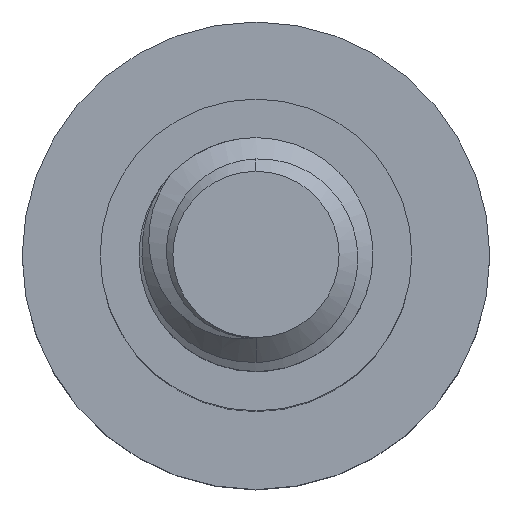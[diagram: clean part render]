
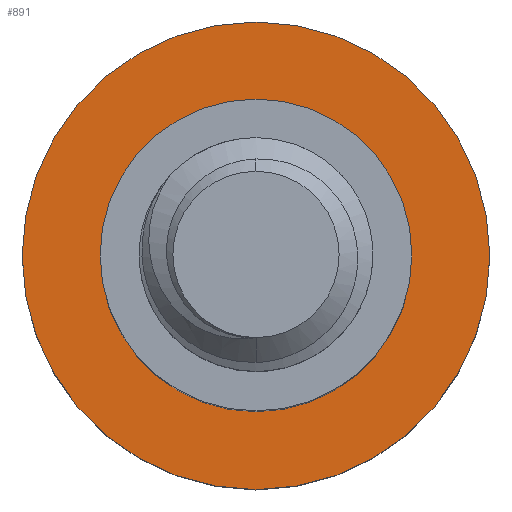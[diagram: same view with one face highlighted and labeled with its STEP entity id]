
A CAD part, top view. The second image highlights one B-rep face of the part: STEP entity #891.
In plain terms, the highlighted planar face has unit normal (0, 0, 1).
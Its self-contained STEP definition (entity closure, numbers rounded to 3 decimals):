
#23 = CARTESIAN_POINT ( 'NONE',  ( 0., 0., -6. ) ) ;
#142 = DIRECTION ( 'NONE',  ( 0., 0., -1. ) ) ;
#164 = CARTESIAN_POINT ( 'NONE',  ( -3., 0., -6. ) ) ;
#234 = DIRECTION ( 'NONE',  ( 0., 0., -1. ) ) ;
#260 = CIRCLE ( 'NONE', #410, 3. ) ;
#299 = AXIS2_PLACEMENT_3D ( 'NONE', #2163, #1703, #2240 ) ;
#305 = ORIENTED_EDGE ( 'NONE', *, *, #1321, .F. ) ;
#354 = ORIENTED_EDGE ( 'NONE', *, *, #1956, .T. ) ;
#410 = AXIS2_PLACEMENT_3D ( 'NONE', #1615, #234, #1591 ) ;
#477 = AXIS2_PLACEMENT_3D ( 'NONE', #23, #1767, #845 ) ;
#502 = ORIENTED_EDGE ( 'NONE', *, *, #908, .T. ) ;
#506 = VERTEX_POINT ( 'NONE', #1656 ) ;
#645 = FACE_OUTER_BOUND ( 'NONE', #1614, .T. ) ;
#681 = DIRECTION ( 'NONE',  ( -1., 0., 0. ) ) ;
#711 = VERTEX_POINT ( 'NONE', #164 ) ;
#780 = CARTESIAN_POINT ( 'NONE',  ( 2., 0., -6. ) ) ;
#845 = DIRECTION ( 'NONE',  ( -1., 0., 0. ) ) ;
#891 = ADVANCED_FACE ( 'NONE', ( #2197, #645 ), #1695, .F. ) ;
#908 = EDGE_CURVE ( 'NONE', #506, #1959, #1121, .T. ) ;
#915 = DIRECTION ( 'NONE',  ( 0., 0., -1. ) ) ;
#945 = CIRCLE ( 'NONE', #1123, 2. ) ;
#1121 = CIRCLE ( 'NONE', #2148, 2. ) ;
#1123 = AXIS2_PLACEMENT_3D ( 'NONE', #1474, #915, #2185 ) ;
#1169 = CARTESIAN_POINT ( 'NONE',  ( 3., 0., -6. ) ) ;
#1321 = EDGE_CURVE ( 'NONE', #2065, #711, #1459, .T. ) ;
#1459 = CIRCLE ( 'NONE', #477, 3. ) ;
#1474 = CARTESIAN_POINT ( 'NONE',  ( 0., 0., -6. ) ) ;
#1551 = CARTESIAN_POINT ( 'NONE',  ( 0., 0., -6. ) ) ;
#1591 = DIRECTION ( 'NONE',  ( -1., 0., 0. ) ) ;
#1614 = EDGE_LOOP ( 'NONE', ( #305, #1796 ) ) ;
#1615 = CARTESIAN_POINT ( 'NONE',  ( 0., 0., -6. ) ) ;
#1656 = CARTESIAN_POINT ( 'NONE',  ( -2., 0., -6. ) ) ;
#1695 = PLANE ( 'NONE',  #299 ) ;
#1703 = DIRECTION ( 'NONE',  ( 0., 0., -1. ) ) ;
#1750 = EDGE_CURVE ( 'NONE', #711, #2065, #260, .T. ) ;
#1767 = DIRECTION ( 'NONE',  ( 0., 0., -1. ) ) ;
#1796 = ORIENTED_EDGE ( 'NONE', *, *, #1750, .F. ) ;
#1956 = EDGE_CURVE ( 'NONE', #1959, #506, #945, .T. ) ;
#1959 = VERTEX_POINT ( 'NONE', #780 ) ;
#2065 = VERTEX_POINT ( 'NONE', #1169 ) ;
#2148 = AXIS2_PLACEMENT_3D ( 'NONE', #1551, #142, #681 ) ;
#2163 = CARTESIAN_POINT ( 'NONE',  ( 0., 0., -6. ) ) ;
#2185 = DIRECTION ( 'NONE',  ( -1., 0., 0. ) ) ;
#2197 = FACE_BOUND ( 'NONE', #2242, .T. ) ;
#2240 = DIRECTION ( 'NONE',  ( -1., 0., 0. ) ) ;
#2242 = EDGE_LOOP ( 'NONE', ( #502, #354 ) ) ;
